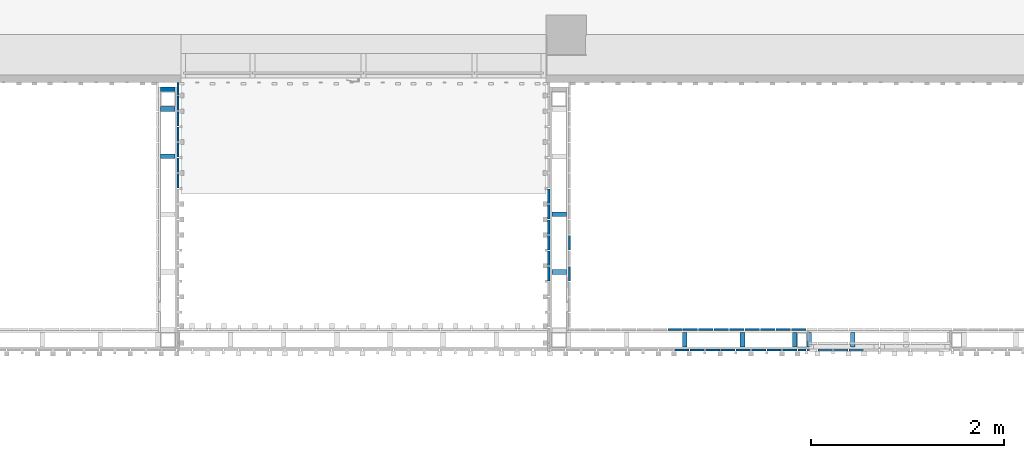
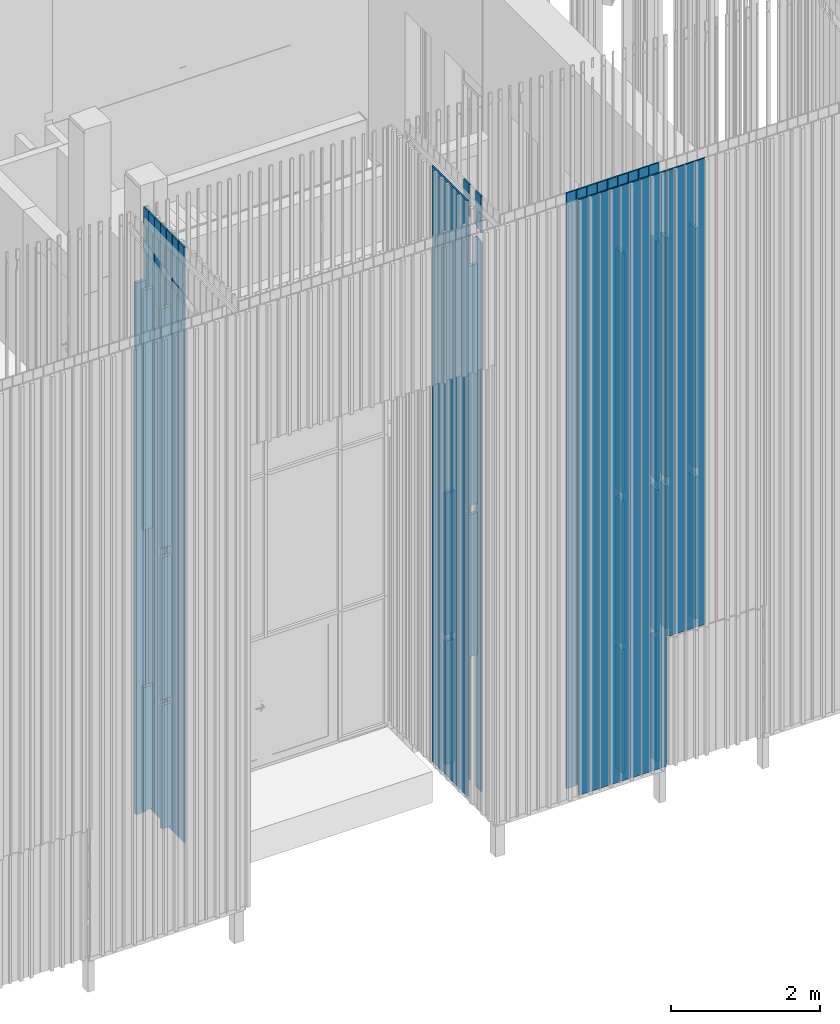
# One storey, part 142 of 390: 60 walls.
"""IFC2X3 building model written with IfcOpenShell, lengths in millimetres."""

import ifcopenshell
import ifcopenshell.guid

model = None  # the IFC model being written
_history = None  # IfcOwnerHistory: only IFC2X3 demands one
_inside = {}  # id of a spatial element -> (the spatial element, [elements in it])
_under = {}  # id of a project, library or spatial element -> (it, [spatial elements below it])
_declared = {}  # id of a project -> (the project, [libraries it declares])
_typed = {}  # id of a type object -> (the type object, [elements of that type])
_made_of = {}  # id of a material, layer set ... -> (it, [elements and type objects made of it])


def new_model(schema):
    """Start an empty IFC model of exactly this schema.

    Asked for "IFC4X3", IfcOpenShell would pick the latest addendum, in which some entities
    have other attributes; the version numbers below select the first issue.
    IFC2X3 requires an IfcOwnerHistory on every rooted entity: one is made here for all.
    """
    global model, _history
    if schema == "IFC4X3":
        model = ifcopenshell.file(schema_version=(4, 3, 0, 0))
    else:
        model = ifcopenshell.file(schema=schema)
    _inside.clear()
    _under.clear()
    _declared.clear()
    _typed.clear()
    _made_of.clear()
    _history = None
    if model.schema == "IFC2X3":
        org = make("IfcOrganization", Name="unknown")
        user = make(
            "IfcPersonAndOrganization",
            ThePerson=make("IfcPerson", FamilyName="unknown"),
            TheOrganization=org,
        )
        app = make(
            "IfcApplication",
            ApplicationDeveloper=org,
            Version="unknown",
            ApplicationFullName="unknown",
            ApplicationIdentifier="unknown",
        )
        _history = make(
            "IfcOwnerHistory",
            OwningUser=user,
            OwningApplication=app,
            ChangeAction="ADDED",
            CreationDate=0,
        )
    return model


def make(cls, **values):
    """One entity of the class cls with the attributes given. An attribute that is None is left unset."""
    return model.create_entity(
        cls, **{name: value for name, value in values.items() if value is not None}
    )


def entity(cls, *values):
    """Any entity or typed value of the class cls, its attributes in the order of the schema. None: left unset."""
    e = model.create_entity(cls)
    for i, value in enumerate(values):
        if value is not None:
            e[i] = value
    return e


def rooted(cls, **values):
    """An entity with a GlobalId (a new one), such as an element, a storey or a relation."""
    return make(cls, GlobalId=ifcopenshell.guid.new(), OwnerHistory=_history, **values)


def si_unit(unit_type, name, prefix=None):
    """IfcSIUnit, for example si_unit("LENGTHUNIT", "METRE", prefix="MILLI")."""
    return make("IfcSIUnit", UnitType=unit_type, Prefix=prefix, Name=name)


def converted_unit(unit_type, name, factor, base, dimensions=None, offset=None):
    """IfcConversionBasedUnit, such as the inch: factor (a typed value) times the base unit."""
    return make(
        "IfcConversionBasedUnit"
        if offset is None
        else "IfcConversionBasedUnitWithOffset",
        ConversionOffset=offset,
        Dimensions=None
        if dimensions is None
        else entity("IfcDimensionalExponents", *dimensions),
        UnitType=unit_type,
        Name=name,
        ConversionFactor=make(
            "IfcMeasureWithUnit", ValueComponent=factor, UnitComponent=base
        ),
    )


def derived_unit(unit_type, elements):
    """IfcDerivedUnit: a product of units, each with its exponent."""
    return make(
        "IfcDerivedUnit",
        Elements=[
            make("IfcDerivedUnitElement", Unit=unit, Exponent=power)
            for unit, power in elements
        ],
        UnitType=unit_type,
    )


def money_unit(currency):
    """IfcMonetaryUnit."""
    return make("IfcMonetaryUnit", Currency=currency)


def assignment(units):
    """IfcUnitAssignment: the units of a project."""
    return None if units is None else make("IfcUnitAssignment", Units=units)


def point(xyz):
    """IfcCartesianPoint."""
    return None if xyz is None else make("IfcCartesianPoint", Coordinates=xyz)


def direction(xyz):
    """IfcDirection."""
    return None if xyz is None else make("IfcDirection", DirectionRatios=xyz)


def frame(location, z_axis=None, x_axis=None):
    """IfcAxis2Placement3D, a coordinate frame: its origin and axes. An axis left out is left unset."""
    return make(
        "IfcAxis2Placement3D",
        Location=point(location),
        Axis=direction(z_axis),
        RefDirection=direction(x_axis),
    )


def origin_with_axes():
    """The frame at (0, 0, 0) with the z axis (0, 0, 1) and the x axis (1, 0, 0) written out."""
    return frame((0.0, 0.0, 0.0), z_axis=(0.0, 0.0, 1.0), x_axis=(1.0, 0.0, 0.0))


def place(relative_to, where):
    """IfcLocalPlacement: puts the frame where relative to a parent placement (None: the world)."""
    return make(
        "IfcLocalPlacement", PlacementRelTo=relative_to, RelativePlacement=where
    )


def context(
    kind, dimensions, precision=None, world=None, true_north=None, identifier=None
):
    """IfcGeometricRepresentationContext, for example the 3D "Model" context."""
    return make(
        "IfcGeometricRepresentationContext",
        ContextIdentifier=identifier,
        ContextType=kind,
        CoordinateSpaceDimension=dimensions,
        Precision=precision,
        WorldCoordinateSystem=world,
        TrueNorth=true_north,
    )


def subcontext(parent, identifier, kind, view, scale=None):
    """IfcGeometricRepresentationSubContext, for example "Body" below "Model"."""
    return make(
        "IfcGeometricRepresentationSubContext",
        ContextIdentifier=identifier,
        ContextType=kind,
        ParentContext=parent,
        TargetScale=scale,
        TargetView=view,
    )


def project(units=None, contexts=None):
    """IfcProject with its units and contexts."""
    return rooted(
        "IfcProject",
        Name="project",
        RepresentationContexts=contexts,
        UnitsInContext=assignment(units),
    )


def spatial(cls, under=None, at=None, **own):
    """A site, building, storey or space (cls), placed at a placement, below another one or the project."""
    s = rooted(cls, ObjectPlacement=at, **own)
    if under is not None:
        _under.setdefault(under.id(), (under, []))[1].append(s)
    return s


def faces_of(points, faces, orient=None, outer=None):
    """IfcFace entities. A face is a list of loops; a loop is a list of indices into points, from 0.

    orient and outer hold one flag for each loop. By default every Orientation is true, the
    first loop of a face is its IfcFaceOuterBound and the others are IfcFaceBound.
    """
    made = []
    for i, loops in enumerate(faces):
        bounds = []
        for j, loop in enumerate(loops):
            is_outer = j == 0 if outer is None else outer[i][j]
            bounds.append(
                make(
                    "IfcFaceOuterBound" if is_outer else "IfcFaceBound",
                    Bound=make("IfcPolyLoop", Polygon=[points[k] for k in loop]),
                    Orientation=True if orient is None else orient[i][j],
                )
            )
        made.append(make("IfcFace", Bounds=bounds))
    return made


def faceted_brep(points, faces, orient=None, outer=None, voids=None):
    """IfcFacetedBrep: a solid bounded by flat faces; with voids (closed shells), ...WithVoids."""
    shared = [point(p) for p in points]
    hull = make("IfcClosedShell", CfsFaces=faces_of(shared, faces, orient, outer))
    if voids is None:
        return make("IfcFacetedBrep", Outer=hull)
    return make(
        "IfcFacetedBrepWithVoids",
        Outer=hull,
        Voids=[
            make(cls, CfsFaces=faces_of(shared, fs, o, b)) for cls, fs, o, b in voids
        ],
    )


def shape(context_of_items, identifier, shape_type, items):
    """IfcShapeRepresentation: the items that make up one representation, for example the "Body"."""
    return make(
        "IfcShapeRepresentation",
        ContextOfItems=context_of_items,
        RepresentationIdentifier=identifier,
        RepresentationType=shape_type,
        Items=items,
    )


def material(Name=None, Category=None):
    """IfcMaterial."""
    return make("IfcMaterial", Name=Name, Category=Category)


def material_list(materials):
    """IfcMaterialList."""
    return make("IfcMaterialList", Materials=materials)


def made_of(thing, what):
    """Note that an element or type object is made of a material, layer set ...; save() writes the relation."""
    if what is not None:
        _made_of.setdefault(what.id(), (what, []))[1].append(thing)
    return thing


def type_object(cls, material=None, **own):
    """A type object (cls), such as IfcWallType, which elements share."""
    return made_of(rooted(cls, **own), material)


def element(
    cls,
    number,
    at=None,
    inside=None,
    cuts=None,
    type_object=None,
    material=None,
    context=None,
    identifier="Body",
    shape_type=None,
    held_by="IfcProductDefinitionShape",
    body=None,
    shapes=None,
    **own,
):
    """One element of the class cls, such as IfcWall. Its Tag is "e" and its number.

    at: its placement. inside: the storey or other place that contains it. cuts: it is an
    opening in that element (IfcRelVoidsElement). A single representation is given by context,
    identifier, shape_type and body (its items); several are given by shapes. held_by: the class
    of the entity that holds the representations. save() writes the other relations.
    """
    e = rooted(cls, Tag="e%d" % number, ObjectPlacement=at, **own)
    if body is not None:
        shapes = [shape(context, identifier, shape_type, body)]
    if shapes is not None:
        e.Representation = make(held_by, Representations=shapes)
    if inside is not None:
        _inside.setdefault(inside.id(), (inside, []))[1].append(e)
    if cuts is not None:
        rooted(
            "IfcRelVoidsElement", RelatingBuildingElement=cuts, RelatedOpeningElement=e
        )
    if type_object is not None:
        _typed.setdefault(type_object.id(), (type_object, []))[1].append(e)
    return made_of(e, material)


def aggregate(whole, parts):
    """IfcRelAggregates: a whole, such as a stair, and the parts it consists of."""
    return rooted("IfcRelAggregates", RelatingObject=whole, RelatedObjects=parts)


def save(model, path):
    """Write the relations noted so far, then the file.

    IfcRelAggregates (storeys below a building ...), IfcRelContainedInSpatialStructure (elements
    in a storey), IfcRelDefinesByType, IfcRelAssociatesMaterial and IfcRelDeclares: one each for
    every whole, place, type object, material and project.
    """
    for whole, parts in _under.values():
        aggregate(whole, parts)
    for where, things in _inside.values():
        rooted(
            "IfcRelContainedInSpatialStructure",
            RelatedElements=things,
            RelatingStructure=where,
        )
    for kind, things in _typed.values():
        rooted("IfcRelDefinesByType", RelatedObjects=things, RelatingType=kind)
    for what, things in _made_of.values():
        rooted("IfcRelAssociatesMaterial", RelatedObjects=things, RelatingMaterial=what)
    for by, libraries in _declared.values():
        rooted("IfcRelDeclares", RelatingContext=by, RelatedDefinitions=libraries)
    model.write(path)


model = new_model("IFC2X3")

# Units and contexts
model_context = context("Model", 3, precision=1e-05, world=origin_with_axes(), true_north=direction((0.0, 1.0)))
body_context = subcontext(model_context, "Body", "Model", "MODEL_VIEW")
ifc_project = project(units=[si_unit("LENGTHUNIT", "METRE", prefix="MILLI"), si_unit("AREAUNIT", "SQUARE_METRE"), si_unit("VOLUMEUNIT", "CUBIC_METRE"), converted_unit("PLANEANGLEUNIT", "DEGREE", entity("IfcPlaneAngleMeasure", 0.0174532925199), si_unit("PLANEANGLEUNIT", "RADIAN"), dimensions=[0, 0, 0, 0, 0, 0, 0]), si_unit("SOLIDANGLEUNIT", "STERADIAN"), money_unit("EUR"), converted_unit("TIMEUNIT", "Year", entity("IfcTimeMeasure", 31556926.0), si_unit("TIMEUNIT", "SECOND"), dimensions=[0, 0, 1, 0, 0, 0, 0]), si_unit("MASSUNIT", "GRAM", prefix="KILO"), si_unit("THERMODYNAMICTEMPERATUREUNIT", "DEGREE_CELSIUS"), si_unit("LUMINOUSINTENSITYUNIT", "LUMEN"), si_unit("ENERGYUNIT", "JOULE", prefix="MEGA"), derived_unit("THERMALCONDUCTANCEUNIT", [(si_unit("POWERUNIT", "WATT"), 1), (si_unit("LENGTHUNIT", "METRE"), -1), (si_unit("THERMODYNAMICTEMPERATUREUNIT", "KELVIN"), -1)]), derived_unit("SPECIFICHEATCAPACITYUNIT", [(si_unit("ENERGYUNIT", "JOULE"), 1), (si_unit("MASSUNIT", "GRAM", prefix="KILO"), -1), (si_unit("THERMODYNAMICTEMPERATUREUNIT", "KELVIN"), -1)]), derived_unit("MASSDENSITYUNIT", [(si_unit("MASSUNIT", "GRAM", prefix="KILO"), 1), (si_unit("VOLUMEUNIT", "CUBIC_METRE"), -1)])], contexts=[model_context])

# Site, building, storey
site_placement = place(None, origin_with_axes())
site = spatial("IfcSite", under=ifc_project, at=site_placement, Name="Site", CompositionType="ELEMENT")
building_placement = place(site_placement, origin_with_axes())
building = spatial("IfcBuilding", under=site, at=building_placement, Name="Building", CompositionType="ELEMENT")
storey_placement = place(building_placement, origin_with_axes())
storey = spatial("IfcBuildingStorey", under=building, at=storey_placement, Name="1 korrus", CompositionType="ELEMENT", Elevation=0.0)

# Walls
ifc_material = material(Name="Site specified")
wall_type = type_object("IfcWallType", Name="Puitfassaadi ribistik", PredefinedType="NOTDEFINED")
wall_1_placement = place(storey_placement, frame((135455.000037, 42599.0000102, 4800.00000001), z_axis=(0.0, 0.0, 1.0), x_axis=(-1.0, 0.0, 0.0)))
element("IfcWall", 1, at=wall_1_placement, inside=storey, type_object=wall_type, material=ifc_material, Name="Site specified", context=body_context, shape_type="Brep", body=[
    faceted_brep([(25.0, -74.9999999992, 3927.99999761), (-25.0, -74.9999999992, 3927.99999761), (-25.0, -74.9999999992, 0.0), (25.0, -74.9999999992, 0.0), (25.0, 74.9999999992, 3927.99999761), (-25.0, 74.9999999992, 3927.99999761), (-25.0, 74.9999999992, 0.0), (25.0, 74.9999999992, 0.0)], [[[0, 1, 2, 3]], [[4, 5, 1, 0]], [[1, 5, 6, 2]], [[7, 3, 2, 6]], [[4, 0, 3, 7]], [[5, 4, 7, 6]]]),
])
wall_2_placement = place(storey_placement, frame((134915.000037, 42599.0000102, 200.000000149), z_axis=(0.0, 0.0, 1.0), x_axis=(-1.0, 0.0, 0.0)))
element("IfcWall", 2, at=wall_2_placement, inside=storey, type_object=wall_type, material=ifc_material, Name="Site specified", context=body_context, shape_type="Brep", body=[
    faceted_brep([(25.0, -74.9999999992, 2019.99999987), (-25.0, -74.9999999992, 2019.99999987), (-25.0, -74.9999999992, 0.0), (25.0, -74.9999999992, 0.0), (25.0, 74.9999999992, 2019.99999987), (-25.0, 74.9999999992, 2019.99999987), (-25.0, 74.9999999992, 0.0), (25.0, 74.9999999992, 0.0)], [[[0, 1, 2, 3]], [[4, 5, 1, 0]], [[1, 5, 6, 2]], [[7, 3, 2, 6]], [[4, 0, 3, 7]], [[5, 4, 7, 6]]]),
])
wall_3_placement = place(storey_placement, frame((134923.000037, 42491.9999727, 100.000000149), z_axis=(0.0, 0.0, 1.0), x_axis=(-1.0, 0.0, 0.0)))
element("IfcWall", 3, at=wall_3_placement, inside=storey, type_object=wall_type, material=ifc_material, Name="Site specified", context=body_context, shape_type="Brep", body=[
    faceted_brep([(75.0, -11.0000000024, 9764.99999985), (-75.0, -11.0000000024, 9764.99999985), (-75.0, -11.0000000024, 0.0), (75.0, -11.0000000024, 0.0), (75.0, 11.0000000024, 9764.99999985), (-75.0, 11.0000000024, 9764.99999985), (-75.0, 11.0000000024, 0.0), (75.0, 11.0000000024, 0.0)], [[[0, 1, 2, 3]], [[4, 5, 1, 0]], [[1, 5, 6, 2]], [[7, 3, 2, 6]], [[4, 0, 3, 7]], [[5, 4, 7, 6]]]),
])
wall_4_placement = place(storey_placement, frame((135632.500037, 42491.9999274, 2220.00000001), z_axis=(0.0, 0.0, 1.0), x_axis=(-1.0, 0.0, 0.0)))
element("IfcWall", 4, at=wall_4_placement, inside=storey, type_object=wall_type, material=ifc_material, Name="Site specified", context=body_context, shape_type="Brep", body=[
    faceted_brep([(52.5, -11.0000000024, 7644.99999999), (-52.5, -11.0000000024, 7644.99999999), (-52.5, -11.0000000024, 0.0), (52.5, -11.0000000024, 0.0), (52.5, 11.0000000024, 7644.99999999), (-52.5, 11.0000000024, 7644.99999999), (-52.5, 11.0000000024, 0.0), (52.5, 11.0000000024, 0.0)], [[[0, 1, 2, 3]], [[4, 5, 1, 0]], [[1, 5, 6, 2]], [[7, 3, 2, 6]], [[4, 0, 3, 7]], [[5, 4, 7, 6]]]),
])
for number, where, z_axis, x_axis, name in (
    (5, (135770.000037, 42491.9999199, 2220.00000001), (0.0, 0.0, 1.0), (-1.0, 0.0, 0.0), "Site specified"),
    (6, (135930.000037, 42491.9999199, 2220.00000001), (0.0, 0.0, 1.0), (-1.0, 0.0, 0.0), "Site specified"),
    (7, (136090.000037, 42491.9999199, 2220.00000001), (0.0, 0.0, 1.0), (-1.0, 0.0, 0.0), "Site specified"),
):
    element("IfcWall", number, at=place(storey_placement, frame(where, z_axis=z_axis, x_axis=x_axis)), inside=storey, type_object=wall_type, material=ifc_material, Name=name, context=body_context, shape_type="Brep", body=[
        faceted_brep([(75.0, -11.0000000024, 7644.99999999), (-75.0, -11.0000000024, 7644.99999999), (-75.0, -11.0000000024, 0.0), (75.0, -11.0000000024, 0.0), (75.0, 11.0000000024, 7644.99999999), (-75.0, 11.0000000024, 7644.99999999), (-75.0, 11.0000000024, 0.0), (75.0, 11.0000000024, 0.0)], [[[0, 1, 2, 3]], [[4, 5, 1, 0]], [[1, 5, 6, 2]], [[7, 3, 2, 6]], [[4, 0, 3, 7]], [[5, 4, 7, 6]]]),
    ])
for number, where, z_axis, x_axis, name in (
    (8, (134315.000037, 42599.0000102, 2320.00000001), (0.0, 0.0, 1.0), (-1.0, 0.0, 0.0), "Site specified"),
    (9, (134915.000037, 42599.0000102, 2320.00000001), (0.0, 0.0, 1.0), (-1.0, 0.0, 0.0), "Site specified"),
):
    element("IfcWall", number, at=place(storey_placement, frame(where, z_axis=z_axis, x_axis=x_axis)), inside=storey, type_object=wall_type, material=ifc_material, Name=name, context=body_context, shape_type="Brep", body=[
        faceted_brep([(25.0, -74.9999999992, 2330.0), (-25.0, -74.9999999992, 2330.0), (-25.0, -74.9999999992, 0.0), (25.0, -74.9999999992, 0.0), (25.0, 74.9999999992, 2330.0), (-25.0, 74.9999999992, 2330.0), (-25.0, 74.9999999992, 0.0), (25.0, 74.9999999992, 0.0)], [[[0, 1, 2, 3]], [[4, 5, 1, 0]], [[1, 5, 6, 2]], [[7, 3, 2, 6]], [[4, 0, 3, 7]], [[5, 4, 7, 6]]]),
    ])
wall_5_placement = place(storey_placement, frame((135528.000037, 42491.9999727, 100.000000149), z_axis=(0.0, 0.0, 1.0), x_axis=(-1.0, 0.0, 0.0)))
element("IfcWall", 10, at=wall_5_placement, inside=storey, type_object=wall_type, material=ifc_material, Name="Site specified", context=body_context, shape_type="Brep", body=[
    faceted_brep([(40.0, -11.0000000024, 9764.99999985), (-40.0, -11.0000000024, 9764.99999985), (-40.0, -11.0000000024, 0.0), (40.0, -11.0000000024, 0.0), (40.0, 11.0000000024, 9764.99999985), (-40.0, 11.0000000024, 9764.99999985), (-40.0, 11.0000000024, 0.0), (40.0, 11.0000000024, 0.0)], [[[0, 1, 2, 3]], [[4, 5, 1, 0]], [[1, 5, 6, 2]], [[7, 3, 2, 6]], [[4, 0, 3, 7]], [[5, 4, 7, 6]]]),
])
wall_6_placement = place(storey_placement, frame((135455.000037, 42599.0000102, 2320.00000001), z_axis=(0.0, 0.0, 1.0), x_axis=(-1.0, 0.0, 0.0)))
element("IfcWall", 11, at=wall_6_placement, inside=storey, type_object=wall_type, material=ifc_material, Name="Site specified", context=body_context, shape_type="Brep", body=[
    faceted_brep([(25.0, -74.9999999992, 2330.0), (-25.0, -74.9999999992, 2330.0), (-25.0, -74.9999999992, 0.0), (25.0, -74.9999999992, 0.0), (25.0, 74.9999999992, 2330.0), (-25.0, 74.9999999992, 2330.0), (-25.0, 74.9999999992, 0.0), (25.0, 74.9999999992, 0.0)], [[[0, 1, 2, 3]], [[4, 5, 1, 0]], [[1, 5, 6, 2]], [[7, 3, 2, 6]], [[4, 0, 3, 7]], [[5, 4, 7, 6]]]),
])
for number, where, z_axis, x_axis, name in (
    (12, (135403.000037, 42491.9999727, 100.000000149), (0.0, 0.0, 1.0), (-1.0, 0.0, 0.0), "Site specified"),
    (13, (135243.000037, 42491.9999727, 100.000000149), (0.0, 0.0, 1.0), (-1.0, 0.0, 0.0), "Site specified"),
    (14, (135083.000037, 42491.9999727, 100.000000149), (0.0, 0.0, 1.0), (-1.0, 0.0, 0.0), "Site specified"),
):
    element("IfcWall", number, at=place(storey_placement, frame(where, z_axis=z_axis, x_axis=x_axis)), inside=storey, type_object=wall_type, material=ifc_material, Name=name, context=body_context, shape_type="Brep", body=[
        faceted_brep([(75.0, -11.0000000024, 9764.99999985), (-75.0, -11.0000000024, 9764.99999985), (-75.0, -11.0000000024, 0.0), (75.0, -11.0000000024, 0.0), (75.0, 11.0000000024, 9764.99999985), (-75.0, 11.0000000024, 9764.99999985), (-75.0, 11.0000000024, 0.0), (75.0, 11.0000000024, 0.0)], [[[0, 1, 2, 3]], [[4, 5, 1, 0]], [[1, 5, 6, 2]], [[7, 3, 2, 6]], [[4, 0, 3, 7]], [[5, 4, 7, 6]]]),
    ])
wall_7_placement = place(storey_placement, frame((135455.000037, 42599.0000102, 200.000000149), z_axis=(0.0, 0.0, 1.0), x_axis=(-1.0, 0.0, 0.0)))
element("IfcWall", 15, at=wall_7_placement, inside=storey, type_object=wall_type, material=ifc_material, Name="Site specified", context=body_context, shape_type="Brep", body=[
    faceted_brep([(25.0, -74.9999999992, 2019.99999987), (-25.0, -74.9999999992, 2019.99999987), (-25.0, -74.9999999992, 0.0), (25.0, -74.9999999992, 0.0), (25.0, 74.9999999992, 2019.99999987), (-25.0, 74.9999999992, 2019.99999987), (-25.0, 74.9999999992, 0.0), (25.0, 74.9999999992, 0.0)], [[[0, 1, 2, 3]], [[4, 5, 1, 0]], [[1, 5, 6, 2]], [[7, 3, 2, 6]], [[4, 0, 3, 7]], [[5, 4, 7, 6]]]),
])
wall_8_placement = place(storey_placement, frame((134763.000037, 42491.9999727, 100.000000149), z_axis=(0.0, 0.0, 1.0), x_axis=(-1.0, 0.0, 0.0)))
element("IfcWall", 16, at=wall_8_placement, inside=storey, type_object=wall_type, material=ifc_material, Name="Site specified", context=body_context, shape_type="Brep", body=[
    faceted_brep([(75.0, -11.0000000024, 9764.99999985), (-75.0, -11.0000000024, 9764.99999985), (-75.0, -11.0000000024, 0.0), (75.0, -11.0000000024, 0.0), (75.0, 11.0000000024, 9764.99999985), (-75.0, 11.0000000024, 9764.99999985), (-75.0, 11.0000000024, 0.0), (75.0, 11.0000000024, 0.0)], [[[0, 1, 2, 3]], [[4, 5, 1, 0]], [[1, 5, 6, 2]], [[7, 3, 2, 6]], [[4, 0, 3, 7]], [[5, 4, 7, 6]]]),
])
wall_9_placement = place(storey_placement, frame((136055.000037, 42599.0000102, 2320.00000001), z_axis=(0.0, 0.0, 1.0), x_axis=(-1.0, 0.0, 0.0)))
element("IfcWall", 17, at=wall_9_placement, inside=storey, type_object=wall_type, material=ifc_material, Name="Site specified", context=body_context, shape_type="Brep", body=[
    faceted_brep([(25.0, -74.9999999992, 2330.0), (-25.0, -74.9999999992, 2330.0), (-25.0, -74.9999999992, 0.0), (25.0, -74.9999999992, 0.0), (25.0, 74.9999999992, 2330.0), (-25.0, 74.9999999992, 2330.0), (-25.0, 74.9999999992, 0.0), (25.0, 74.9999999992, 0.0)], [[[0, 1, 2, 3]], [[4, 5, 1, 0]], [[1, 5, 6, 2]], [[7, 3, 2, 6]], [[4, 0, 3, 7]], [[5, 4, 7, 6]]]),
])
wall_10_placement = place(storey_placement, frame((136055.000037, 42599.0000102, 4800.00000001), z_axis=(0.0, 0.0, 1.0), x_axis=(-1.0, 0.0, 0.0)))
element("IfcWall", 18, at=wall_10_placement, inside=storey, type_object=wall_type, material=ifc_material, Name="Site specified", context=body_context, shape_type="Brep", body=[
    faceted_brep([(25.0, -74.9999999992, 3927.99999761), (-25.0, -74.9999999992, 3927.99999761), (-25.0, -74.9999999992, 0.0), (25.0, -74.9999999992, 0.0), (25.0, 74.9999999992, 3927.99999761), (-25.0, 74.9999999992, 3927.99999761), (-25.0, 74.9999999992, 0.0), (25.0, 74.9999999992, 0.0)], [[[0, 1, 2, 3]], [[4, 5, 1, 0]], [[1, 5, 6, 2]], [[7, 3, 2, 6]], [[4, 0, 3, 7]], [[5, 4, 7, 6]]]),
])
for number, where, z_axis, x_axis, name in (
    (19, (135495.000037, 42706.0000102, 100.000000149), (0.0, 0.0, 1.0), (-1.0, 0.0, 0.0), "Site specified"),
    (20, (135335.000037, 42706.0000106, 100.000000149), (0.0, 0.0, 1.0), (-1.0, 0.0, 0.0), "Site specified"),
    (21, (135175.000037, 42706.0000106, 100.000000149), (0.0, 0.0, 1.0), (-1.0, 0.0, 0.0), "Site specified"),
    (22, (135015.000037, 42706.0000106, 100.000000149), (0.0, 0.0, 1.0), (-1.0, 0.0, 0.0), "Site specified"),
    (23, (134855.000037, 42706.0000106, 100.000000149), (0.0, 0.0, 1.0), (-1.0, 0.0, 0.0), "Site specified"),
    (24, (134695.000037, 42706.0000106, 100.000000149), (0.0, 0.0, 1.0), (-1.0, 0.0, 0.0), "Site specified"),
    (25, (134535.000037, 42706.0000106, 100.000000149), (0.0, 0.0, 1.0), (-1.0, 0.0, 0.0), "Site specified"),
    (26, (134375.000037, 42706.0000106, 100.000000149), (0.0, 0.0, 1.0), (-1.0, 0.0, 0.0), "Site specified"),
    (27, (134215.000037, 42706.0000106, 100.000000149), (0.0, 0.0, 1.0), (-1.0, 0.0, 0.0), "Site specified"),
):
    element("IfcWall", number, at=place(storey_placement, frame(where, z_axis=z_axis, x_axis=x_axis)), inside=storey, type_object=wall_type, material=ifc_material, Name=name, context=body_context, shape_type="Brep", body=[
        faceted_brep([(75.0, -11.0000000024, 9764.99999985), (-75.0, -11.0000000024, 9764.99999985), (-75.0, -11.0000000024, 0.0), (75.0, -11.0000000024, 0.0), (75.0, 11.0000000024, 9764.99999985), (-75.0, 11.0000000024, 9764.99999985), (-75.0, 11.0000000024, 0.0), (75.0, 11.0000000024, 0.0)], [[[0, 1, 2, 3]], [[4, 5, 1, 0]], [[1, 5, 6, 2]], [[7, 3, 2, 6]], [[4, 0, 3, 7]], [[5, 4, 7, 6]]]),
    ])
wall_11_placement = place(storey_placement, frame((128964.999994, 44499.0000337, 200.000000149), z_axis=(0.0, 0.0, 1.0), x_axis=(0.0, 1.0, 0.0)))
element("IfcWall", 28, at=wall_11_placement, inside=storey, type_object=wall_type, material=ifc_material, Name="Site specified", context=body_context, shape_type="Brep", body=[
    faceted_brep([(25.0, -74.9999999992, 2019.99999987), (-25.0, -74.9999999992, 2019.99999987), (-25.0, -74.9999999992, 0.0), (25.0, -74.9999999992, 0.0), (25.0, 74.9999999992, 2019.99999987), (-25.0, 74.9999999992, 2019.99999987), (-25.0, 74.9999999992, 0.0), (25.0, 74.9999999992, 0.0)], [[[0, 1, 2, 3]], [[4, 5, 1, 0]], [[1, 5, 6, 2]], [[7, 3, 2, 6]], [[4, 0, 3, 7]], [[5, 4, 7, 6]]]),
])
wall_12_placement = place(storey_placement, frame((128964.999994, 44499.0000337, 2320.00000001), z_axis=(0.0, 0.0, 1.0), x_axis=(0.0, 1.0, 0.0)))
element("IfcWall", 29, at=wall_12_placement, inside=storey, type_object=wall_type, material=ifc_material, Name="Site specified", context=body_context, shape_type="Brep", body=[
    faceted_brep([(25.0, -74.9999999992, 2330.0), (-25.0, -74.9999999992, 2330.0), (-25.0, -74.9999999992, 0.0), (25.0, -74.9999999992, 0.0), (25.0, 74.9999999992, 2330.0), (-25.0, 74.9999999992, 2330.0), (-25.0, 74.9999999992, 0.0), (25.0, 74.9999999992, 0.0)], [[[0, 1, 2, 3]], [[4, 5, 1, 0]], [[1, 5, 6, 2]], [[7, 3, 2, 6]], [[4, 0, 3, 7]], [[5, 4, 7, 6]]]),
])
wall_13_placement = place(storey_placement, frame((128964.999994, 44499.0000337, 4800.00000001), z_axis=(0.0, 0.0, 1.0), x_axis=(0.0, 1.0, 0.0)))
element("IfcWall", 30, at=wall_13_placement, inside=storey, type_object=wall_type, material=ifc_material, Name="Site specified", context=body_context, shape_type="Brep", body=[
    faceted_brep([(25.0, -74.9999999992, 3927.99999761), (-25.0, -74.9999999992, 3927.99999761), (-25.0, -74.9999999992, 0.0), (25.0, -74.9999999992, 0.0), (25.0, 74.9999999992, 3927.99999761), (-25.0, 74.9999999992, 3927.99999761), (-25.0, 74.9999999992, 0.0), (25.0, 74.9999999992, 0.0)], [[[0, 1, 2, 3]], [[4, 5, 1, 0]], [[1, 5, 6, 2]], [[7, 3, 2, 6]], [[4, 0, 3, 7]], [[5, 4, 7, 6]]]),
])
wall_14_placement = place(storey_placement, frame((128964.999994, 44989.0000337, 200.000000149), z_axis=(0.0, 0.0, 1.0), x_axis=(0.0, 1.0, 0.0)))
element("IfcWall", 31, at=wall_14_placement, inside=storey, type_object=wall_type, material=ifc_material, Name="Site specified", context=body_context, shape_type="Brep", body=[
    faceted_brep([(25.0, -74.9999999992, 2019.99999987), (-25.0, -74.9999999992, 2019.99999987), (-25.0, -74.9999999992, 0.0), (25.0, -74.9999999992, 0.0), (25.0, 74.9999999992, 2019.99999987), (-25.0, 74.9999999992, 2019.99999987), (-25.0, 74.9999999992, 0.0), (25.0, 74.9999999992, 0.0)], [[[0, 1, 2, 3]], [[4, 5, 1, 0]], [[1, 5, 6, 2]], [[7, 3, 2, 6]], [[4, 0, 3, 7]], [[5, 4, 7, 6]]]),
])
wall_15_placement = place(storey_placement, frame((128964.999994, 44989.0000337, 4800.00000001), z_axis=(0.0, 0.0, 1.0), x_axis=(0.0, 1.0, 0.0)))
element("IfcWall", 32, at=wall_15_placement, inside=storey, type_object=wall_type, material=ifc_material, Name="Site specified", context=body_context, shape_type="Brep", body=[
    faceted_brep([(25.0, -74.9999999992, 3927.99999761), (-25.0, -74.9999999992, 3927.99999761), (-25.0, -74.9999999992, 0.0), (25.0, -74.9999999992, 0.0), (25.0, 74.9999999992, 3927.99999761), (-25.0, 74.9999999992, 3927.99999761), (-25.0, 74.9999999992, 0.0), (25.0, 74.9999999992, 0.0)], [[[0, 1, 2, 3]], [[4, 5, 1, 0]], [[1, 5, 6, 2]], [[7, 3, 2, 6]], [[4, 0, 3, 7]], [[5, 4, 7, 6]]]),
])
wall_16_placement = place(storey_placement, frame((128964.999994, 45189.0000337, 15.0000000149), z_axis=(0.0, 0.0, 1.0), x_axis=(0.0, 1.0, 0.0)))
element("IfcWall", 33, at=wall_16_placement, inside=storey, type_object=wall_type, material=ifc_material, Name="Site specified", context=body_context, shape_type="Brep", body=[
    faceted_brep([(25.0, -74.9999999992, 8712.99999761), (-25.0, -74.9999999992, 8712.99999761), (-25.0, -74.9999999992, 0.0), (25.0, -74.9999999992, 0.0), (25.0, 74.9999999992, 8712.99999761), (-25.0, 74.9999999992, 8712.99999761), (-25.0, 74.9999999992, 0.0), (25.0, 74.9999999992, 0.0)], [[[0, 1, 2, 3]], [[4, 5, 1, 0]], [[1, 5, 6, 2]], [[7, 3, 2, 6]], [[4, 0, 3, 7]], [[5, 4, 7, 6]]]),
])
ifc_material_list = material_list([ifc_material, ifc_material])
wall_17_placement = place(storey_placement, frame((133122.000037, 43603.0000099, 100.000000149), z_axis=(0.0, 0.0, 1.0), x_axis=(0.0, 1.0, 0.0)))
element("IfcWall", 34, at=wall_17_placement, inside=storey, type_object=wall_type, material=ifc_material_list, Name="Site specified", context=body_context, shape_type="Brep", body=[
    faceted_brep([(19.7121763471, -11.0000000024, 9264.73247243), (19.712105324, -11.0000000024, 9243.26365408), (29.4935803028, -11.0000000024, 9245.34277582), (29.4936523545, -11.0000000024, 9266.81158934), (75.0, -11.0000000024, 9276.48426213), (75.0, -11.0000000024, 9764.99999985), (-75.0, -11.0000000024, 9764.99999985), (-75.0, -11.0000000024, 9223.13192565), (-73.2119069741, -11.0000000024, 9223.51199748), (-73.2118457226, -11.0000000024, 9244.98086181), (19.7121763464, 11.0000000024, 9264.73247243), (19.7121053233, 11.0000000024, 9243.26365408), (29.4935803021, 11.0000000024, 9245.34277582), (29.4936523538, 11.0000000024, 9266.81158934), (75.0, 11.0000000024, 9276.48426213), (75.0, 11.0000000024, 9764.99999985), (-75.0, 11.0000000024, 9764.99999985), (-75.0, 11.0000000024, 9223.13192565), (-73.2119069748, 11.0000000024, 9223.51199748), (-73.2118457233, 11.0000000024, 9244.98086181)], [[[0, 1, 2, 3, 4, 5, 6, 7, 8, 9]], [[10, 11, 1, 0]], [[11, 12, 2, 1]], [[3, 2, 12, 13]], [[13, 14, 4, 3]], [[5, 4, 14, 15]], [[15, 16, 6, 5]], [[16, 17, 7, 6]], [[17, 18, 8, 7]], [[9, 8, 18, 19]], [[10, 0, 9, 19]], [[13, 12, 11, 10, 19, 18, 17, 16, 15, 14]]]),
    faceted_brep([(75.0, 11.0000000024, 0.0), (75.0, 11.0000000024, 9101.6643821), (75.0, -11.0000000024, 9101.6643821), (75.0, -11.0000000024, 0.0), (-75.0, 11.0000000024, 0.0), (-75.0, 11.0000000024, 9069.78082029), (-75.0, -11.0000000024, 9069.78082029), (-75.0, -11.0000000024, 0.0)], [[[0, 1, 2, 3]], [[4, 5, 1, 0]], [[5, 6, 2, 1]], [[3, 2, 6, 7]], [[0, 3, 7, 4]], [[7, 6, 5, 4]]]),
])
wall_18_placement = place(storey_placement, frame((133122.000037, 43283.0000099, 100.000000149), z_axis=(0.0, 0.0, 1.0), x_axis=(0.0, 1.0, 0.0)))
element("IfcWall", 35, at=wall_18_placement, inside=storey, type_object=wall_type, material=ifc_material_list, Name="Site specified", context=body_context, shape_type="Brep", body=[
    faceted_brep([(31.595682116, -11.0000000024, 9199.24028983), (31.5956434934, -11.0000000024, 9177.77131904), (41.3771184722, -11.0000000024, 9179.85044078), (41.3771581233, -11.0000000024, 9201.31940673), (75.0, -11.0000000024, 9208.4661624), (75.0, -11.0000000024, 9764.99999985), (-75.0, -11.0000000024, 9764.99999985), (-75.0, -11.0000000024, 9176.58267815), (-71.1098159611, -11.0000000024, 9177.40956229), (-71.1098437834, -11.0000000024, 9155.94054069), (-61.3283688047, -11.0000000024, 9158.01966244), (-61.3283399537, -11.0000000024, 9179.4886792), (31.5956821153, 11.0000000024, 9199.24028983), (31.5956434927, 11.0000000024, 9177.77131904), (41.3771184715, 11.0000000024, 9179.85044078), (41.3771581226, 11.0000000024, 9201.31940673), (75.0, 11.0000000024, 9208.4661624), (75.0, 11.0000000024, 9764.99999985), (-75.0, 11.0000000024, 9764.99999985), (-75.0, 11.0000000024, 9176.58267815), (-71.1098159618, 11.0000000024, 9177.40956229), (-71.1098437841, 11.0000000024, 9155.94054069), (-61.3283688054, 11.0000000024, 9158.01966244), (-61.3283399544, 11.0000000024, 9179.4886792)], [[[0, 1, 2, 3, 4, 5, 6, 7, 8, 9, 10, 11]], [[12, 13, 1, 0]], [[13, 14, 2, 1]], [[3, 2, 14, 15]], [[15, 16, 4, 3]], [[5, 4, 16, 17]], [[17, 18, 6, 5]], [[18, 19, 7, 6]], [[20, 8, 7, 19]], [[20, 21, 9, 8]], [[21, 22, 10, 9]], [[11, 10, 22, 23]], [[12, 0, 11, 23]], [[15, 14, 13, 12, 23, 22, 21, 20, 19, 18, 17, 16]]]),
    faceted_brep([(75.0, 11.0000000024, 0.0), (75.0, 11.0000000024, 9033.64611691), (75.0, -11.0000000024, 9033.64611691), (75.0, -11.0000000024, 0.0), (-75.0, 11.0000000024, 0.0), (-75.0, 11.0000000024, 9001.76255509), (-75.0, -11.0000000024, 9001.76255509), (-75.0, -11.0000000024, 0.0)], [[[0, 1, 2, 3]], [[4, 5, 1, 0]], [[5, 6, 2, 1]], [[3, 2, 6, 7]], [[0, 3, 7, 4]], [[7, 6, 5, 4]]]),
])
for number, where, z_axis, x_axis, name in (
    (36, (132908.000037, 43285.0000099, 100.000000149), (0.0, 0.0, 1.0), (0.0, 1.0, 0.0), "Site specified"),
    (37, (134443.000037, 42491.9999802, 100.000000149), (0.0, 0.0, 1.0), (-1.0, 0.0, 0.0), "Site specified"),
    (38, (134283.000037, 42491.9999802, 100.000000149), (0.0, 0.0, 1.0), (-1.0, 0.0, 0.0), "Site specified"),
    (39, (129071.999994, 44405.0000337, 100.000000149), (0.0, 0.0, 1.0), (0.0, 1.0, 0.0), "Site specified"),
    (40, (129071.999994, 44245.0000337, 100.000000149), (0.0, 0.0, 1.0), (0.0, 1.0, 0.0), "Site specified"),
):
    element("IfcWall", number, at=place(storey_placement, frame(where, z_axis=z_axis, x_axis=x_axis)), inside=storey, type_object=wall_type, material=ifc_material, Name=name, context=body_context, shape_type="Brep", body=[
        faceted_brep([(75.0, -11.0000000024, 9764.99999985), (-75.0, -11.0000000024, 9764.99999985), (-75.0, -11.0000000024, 0.0), (75.0, -11.0000000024, 0.0), (75.0, 11.0000000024, 9764.99999985), (-75.0, 11.0000000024, 9764.99999985), (-75.0, 11.0000000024, 0.0), (75.0, 11.0000000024, 0.0)], [[[0, 1, 2, 3]], [[4, 5, 1, 0]], [[1, 5, 6, 2]], [[7, 3, 2, 6]], [[4, 0, 3, 7]], [[5, 4, 7, 6]]]),
    ])
wall_19_placement = place(storey_placement, frame((134915.000037, 42599.0000102, 4800.00000001), z_axis=(0.0, 0.0, 1.0), x_axis=(-1.0, 0.0, 0.0)))
element("IfcWall", 41, at=wall_19_placement, inside=storey, type_object=wall_type, material=ifc_material, Name="Site specified", context=body_context, shape_type="Brep", body=[
    faceted_brep([(25.0, -74.9999999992, 3927.99999761), (-25.0, -74.9999999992, 3927.99999761), (-25.0, -74.9999999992, 0.0), (25.0, -74.9999999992, 0.0), (25.0, 74.9999999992, 3927.99999761), (-25.0, 74.9999999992, 3927.99999761), (-25.0, 74.9999999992, 0.0), (25.0, 74.9999999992, 0.0)], [[[0, 1, 2, 3]], [[4, 5, 1, 0]], [[1, 5, 6, 2]], [[7, 3, 2, 6]], [[4, 0, 3, 7]], [[5, 4, 7, 6]]]),
])
for number, where, z_axis, x_axis, name in (
    (42, (132908.000037, 43925.0000099, 100.000000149), (0.0, 0.0, 1.0), (0.0, 1.0, 0.0), "Site specified"),
    (43, (132908.000037, 44085.0000099, 100.000000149), (0.0, 0.0, 1.0), (0.0, 1.0, 0.0), "Site specified"),
    (44, (132908.000037, 43445.0000099, 100.000000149), (0.0, 0.0, 1.0), (0.0, 1.0, 0.0), "Site specified"),
    (45, (134603.000037, 42491.9999727, 100.000000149), (0.0, 0.0, 1.0), (-1.0, 0.0, 0.0), "Site specified"),
    (46, (132908.000037, 43765.0000099, 100.000000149), (0.0, 0.0, 1.0), (0.0, 1.0, 0.0), "Site specified"),
    (47, (132908.000037, 43605.0000099, 100.000000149), (0.0, 0.0, 1.0), (0.0, 1.0, 0.0), "Site specified"),
):
    element("IfcWall", number, at=place(storey_placement, frame(where, z_axis=z_axis, x_axis=x_axis)), inside=storey, type_object=wall_type, material=ifc_material, Name=name, context=body_context, shape_type="Brep", body=[
        faceted_brep([(75.0, -11.0000000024, 9764.99999985), (-75.0, -11.0000000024, 9764.99999985), (-75.0, -11.0000000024, 0.0), (75.0, -11.0000000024, 0.0), (75.0, 11.0000000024, 9764.99999985), (-75.0, 11.0000000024, 9764.99999985), (-75.0, 11.0000000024, 0.0), (75.0, 11.0000000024, 0.0)], [[[0, 1, 2, 3]], [[4, 5, 1, 0]], [[1, 5, 6, 2]], [[7, 3, 2, 6]], [[4, 0, 3, 7]], [[5, 4, 7, 6]]]),
    ])
wall_20_placement = place(storey_placement, frame((133015.000037, 43299.0000099, 4800.00000001), z_axis=(0.0, 0.0, 1.0), x_axis=(0.0, 1.0, 0.0)))
element("IfcWall", 48, at=wall_20_placement, inside=storey, type_object=wall_type, material=ifc_material, Name="Site specified", context=body_context, shape_type="Brep", body=[
    faceted_brep([(25.0, -74.9999999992, 3927.99999761), (-25.0, -74.9999999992, 3927.99999761), (-25.0, -74.9999999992, 0.0), (25.0, -74.9999999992, 0.0), (25.0, 74.9999999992, 3927.99999761), (-25.0, 74.9999999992, 3927.99999761), (-25.0, 74.9999999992, 0.0), (25.0, 74.9999999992, 0.0)], [[[0, 1, 2, 3]], [[4, 5, 1, 0]], [[1, 5, 6, 2]], [[7, 3, 2, 6]], [[4, 0, 3, 7]], [[5, 4, 7, 6]]]),
])
wall_21_placement = place(storey_placement, frame((133015.000037, 43299.0000099, 2320.00000001), z_axis=(0.0, 0.0, 1.0), x_axis=(0.0, 1.0, 0.0)))
element("IfcWall", 49, at=wall_21_placement, inside=storey, type_object=wall_type, material=ifc_material, Name="Site specified", context=body_context, shape_type="Brep", body=[
    faceted_brep([(25.0, -74.9999999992, 2330.0), (-25.0, -74.9999999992, 2330.0), (-25.0, -74.9999999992, 0.0), (25.0, -74.9999999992, 0.0), (25.0, 74.9999999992, 2330.0), (-25.0, 74.9999999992, 2330.0), (-25.0, 74.9999999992, 0.0), (25.0, 74.9999999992, 0.0)], [[[0, 1, 2, 3]], [[4, 5, 1, 0]], [[1, 5, 6, 2]], [[7, 3, 2, 6]], [[4, 0, 3, 7]], [[5, 4, 7, 6]]]),
])
for number, where, z_axis, x_axis, name in (
    (50, (129071.999994, 44565.0000337, 100.000000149), (0.0, 0.0, 1.0), (0.0, 1.0, 0.0), "Site specified"),
    (51, (129071.999994, 44725.0000337, 100.000000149), (0.0, 0.0, 1.0), (0.0, 1.0, 0.0), "Site specified"),
    (52, (129071.999994, 44885.0000337, 100.000000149), (0.0, 0.0, 1.0), (0.0, 1.0, 0.0), "Site specified"),
    (53, (129071.999994, 45045.0000337, 100.000000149), (0.0, 0.0, 1.0), (0.0, 1.0, 0.0), "Site specified"),
):
    element("IfcWall", number, at=place(storey_placement, frame(where, z_axis=z_axis, x_axis=x_axis)), inside=storey, type_object=wall_type, material=ifc_material, Name=name, context=body_context, shape_type="Brep", body=[
        faceted_brep([(75.0, -11.0000000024, 9764.99999985), (-75.0, -11.0000000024, 9764.99999985), (-75.0, -11.0000000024, 0.0), (75.0, -11.0000000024, 0.0), (75.0, 11.0000000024, 9764.99999985), (-75.0, 11.0000000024, 9764.99999985), (-75.0, 11.0000000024, 0.0), (75.0, 11.0000000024, 0.0)], [[[0, 1, 2, 3]], [[4, 5, 1, 0]], [[1, 5, 6, 2]], [[7, 3, 2, 6]], [[4, 0, 3, 7]], [[5, 4, 7, 6]]]),
    ])
wall_22_placement = place(storey_placement, frame((129071.999994, 45205.0000337, 100.000000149), z_axis=(0.0, 0.0, 1.0), x_axis=(0.0, 1.0, 0.0)))
element("IfcWall", 54, at=wall_22_placement, inside=storey, type_object=wall_type, material=ifc_material, Name="Site specified", context=body_context, shape_type="Brep", body=[
    faceted_brep([(-75.0, -11.0000000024, 9764.99999985), (-75.0, -11.0000000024, 0.0), (57.9998783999, -11.0000000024, -3.12924797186e-06), (57.9999747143, -11.0000000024, 9764.99999985), (-75.0, 11.0000000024, 9764.99999985), (-75.0, 11.0000000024, 0.0), (57.9998783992, 11.0000000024, -3.12924797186e-06), (57.9999747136, 11.0000000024, 9764.99999985)], [[[0, 1, 2, 3]], [[1, 0, 4, 5]], [[1, 5, 6, 2]], [[6, 7, 3, 2]], [[4, 0, 3, 7]], [[4, 7, 6, 5]]]),
])
wall_23_placement = place(storey_placement, frame((134315.000037, 42599.0000102, 200.000000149), z_axis=(0.0, 0.0, 1.0), x_axis=(-1.0, 0.0, 0.0)))
element("IfcWall", 55, at=wall_23_placement, inside=storey, type_object=wall_type, material=ifc_material, Name="Site specified", context=body_context, shape_type="Brep", body=[
    faceted_brep([(25.0, -74.9999999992, 2019.99999987), (-25.0, -74.9999999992, 2019.99999987), (-25.0, -74.9999999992, 0.0), (25.0, -74.9999999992, 0.0), (25.0, 74.9999999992, 2019.99999987), (-25.0, 74.9999999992, 2019.99999987), (-25.0, 74.9999999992, 0.0), (25.0, 74.9999999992, 0.0)], [[[0, 1, 2, 3]], [[4, 5, 1, 0]], [[1, 5, 6, 2]], [[7, 3, 2, 6]], [[4, 0, 3, 7]], [[5, 4, 7, 6]]]),
])
wall_24_placement = place(storey_placement, frame((133015.000037, 43899.0000099, 2320.00000001), z_axis=(0.0, 0.0, 1.0), x_axis=(0.0, 1.0, 0.0)))
element("IfcWall", 56, at=wall_24_placement, inside=storey, type_object=wall_type, material=ifc_material, Name="Site specified", context=body_context, shape_type="Brep", body=[
    faceted_brep([(25.0, -74.9999999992, 2330.0), (-25.0, -74.9999999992, 2330.0), (-25.0, -74.9999999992, 0.0), (25.0, -74.9999999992, 0.0), (25.0, 74.9999999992, 2330.0), (-25.0, 74.9999999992, 2330.0), (-25.0, 74.9999999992, 0.0), (25.0, 74.9999999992, 0.0)], [[[0, 1, 2, 3]], [[4, 5, 1, 0]], [[1, 5, 6, 2]], [[7, 3, 2, 6]], [[4, 0, 3, 7]], [[5, 4, 7, 6]]]),
])
wall_25_placement = place(storey_placement, frame((134315.000037, 42599.0000102, 4800.00000001), z_axis=(0.0, 0.0, 1.0), x_axis=(-1.0, 0.0, 0.0)))
element("IfcWall", 57, at=wall_25_placement, inside=storey, type_object=wall_type, material=ifc_material, Name="Site specified", context=body_context, shape_type="Brep", body=[
    faceted_brep([(25.0, -74.9999999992, 3927.99999761), (-25.0, -74.9999999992, 3927.99999761), (-25.0, -74.9999999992, 0.0), (25.0, -74.9999999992, 0.0), (25.0, 74.9999999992, 3927.99999761), (-25.0, 74.9999999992, 3927.99999761), (-25.0, 74.9999999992, 0.0), (25.0, 74.9999999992, 0.0)], [[[0, 1, 2, 3]], [[4, 5, 1, 0]], [[1, 5, 6, 2]], [[7, 3, 2, 6]], [[4, 0, 3, 7]], [[5, 4, 7, 6]]]),
])
wall_26_placement = place(storey_placement, frame((133015.000037, 43899.0000099, 200.000000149), z_axis=(0.0, 0.0, 1.0), x_axis=(0.0, 1.0, 0.0)))
element("IfcWall", 58, at=wall_26_placement, inside=storey, type_object=wall_type, material=ifc_material, Name="Site specified", context=body_context, shape_type="Brep", body=[
    faceted_brep([(25.0, -74.9999999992, 2019.99999987), (-25.0, -74.9999999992, 2019.99999987), (-25.0, -74.9999999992, 0.0), (25.0, -74.9999999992, 0.0), (25.0, 74.9999999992, 2019.99999987), (-25.0, 74.9999999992, 2019.99999987), (-25.0, 74.9999999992, 0.0), (25.0, 74.9999999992, 0.0)], [[[0, 1, 2, 3]], [[4, 5, 1, 0]], [[1, 5, 6, 2]], [[7, 3, 2, 6]], [[4, 0, 3, 7]], [[5, 4, 7, 6]]]),
])
wall_27_placement = place(storey_placement, frame((135605.000037, 42599.0000102, 2320.00000001), z_axis=(0.0, 0.0, 1.0), x_axis=(-1.0, 0.0, 0.0)))
element("IfcWall", 59, at=wall_27_placement, inside=storey, type_object=wall_type, material=ifc_material, Name="Site specified", context=body_context, shape_type="Brep", body=[
    faceted_brep([(25.0, -74.9999999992, 2330.0), (-25.0, -74.9999999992, 2330.0), (-25.0, -74.9999999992, 0.0), (25.0, -74.9999999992, 0.0), (25.0, 74.9999999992, 2330.0), (-25.0, 74.9999999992, 2330.0), (-25.0, 74.9999999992, 0.0), (25.0, 74.9999999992, 0.0)], [[[0, 1, 2, 3]], [[4, 5, 1, 0]], [[1, 5, 6, 2]], [[7, 3, 2, 6]], [[4, 0, 3, 7]], [[5, 4, 7, 6]]]),
])
wall_28_placement = place(storey_placement, frame((135605.000037, 42599.0000102, 4800.00000001), z_axis=(0.0, 0.0, 1.0), x_axis=(-1.0, 0.0, 0.0)))
element("IfcWall", 60, at=wall_28_placement, inside=storey, type_object=wall_type, material=ifc_material, Name="Site specified", context=body_context, shape_type="Brep", body=[
    faceted_brep([(25.0, -74.9999999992, 3927.99999761), (-25.0, -74.9999999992, 3927.99999761), (-25.0, -74.9999999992, 0.0), (25.0, -74.9999999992, 0.0), (25.0, 74.9999999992, 3927.99999761), (-25.0, 74.9999999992, 3927.99999761), (-25.0, 74.9999999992, 0.0), (25.0, 74.9999999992, 0.0)], [[[0, 1, 2, 3]], [[4, 5, 1, 0]], [[1, 5, 6, 2]], [[7, 3, 2, 6]], [[4, 0, 3, 7]], [[5, 4, 7, 6]]]),
])

save(model, "model.ifc")
